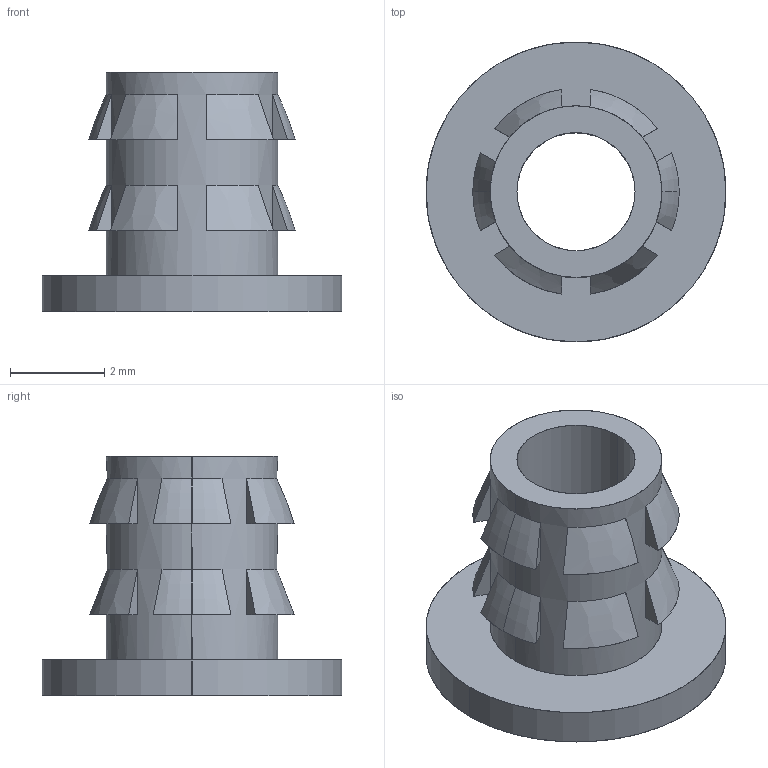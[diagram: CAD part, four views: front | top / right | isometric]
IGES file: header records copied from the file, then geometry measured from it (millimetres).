
Start section: SolidWorks IGES file using analytic representation for surfaces
Global section: file name: G:\thermofab project\INSERT\insert project\INSERT 3D\Flanged insert M3 S1.IGS; native system: SolidWorks 2015; preprocessor: SolidWorks 2015; author: Administrator; date: 170809.164225; units: millimetre
Bounding box: 6.35 x 6.35 x 5.08 mm (x, y, z)
Surface area: 170.8 mm2 (no closed solid volume)
Topology: 0 solids, 0 shells, 63 faces, 544 edges, 544 vertices
Faces by surface type: bspline 55, revolution 8
